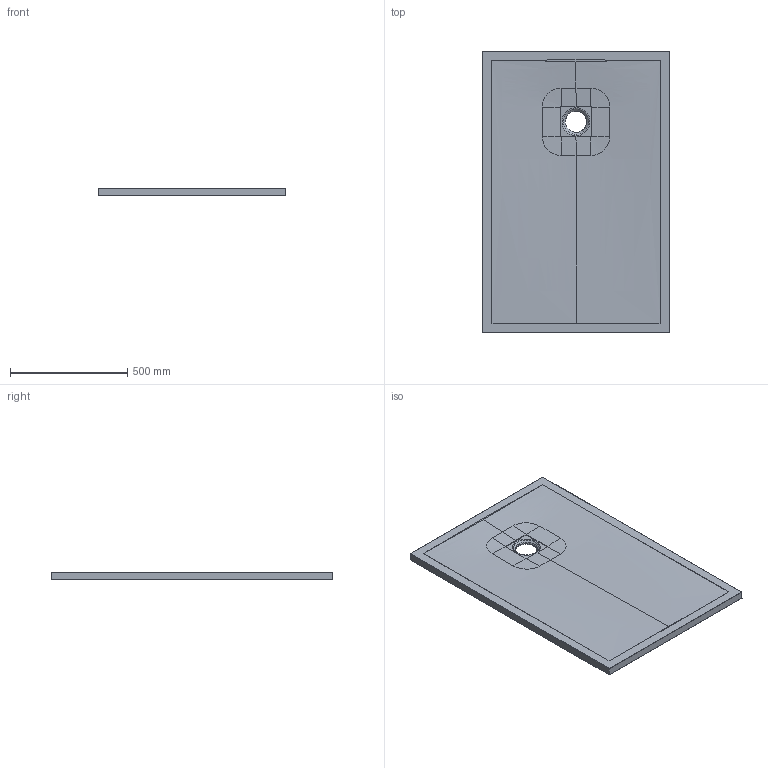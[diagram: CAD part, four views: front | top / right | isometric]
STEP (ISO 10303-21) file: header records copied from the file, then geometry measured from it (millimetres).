
FILE_DESCRIPTION(/* description */ (''),/* implementation_level */ '2;1');
FILE_NAME(/* name */ '1200X800.stp',/* time_stamp */ '2022-02-25T14:25:42+01:00',/* author */ (''),/* organization */ (''),/* preprocessor_version */ 'ST-DEVELOPER v18.1',/* originating_system */ 'SIEMENS PLM Software NX 1973',/* authorisation */ '');
FILE_SCHEMA (('AUTOMOTIVE_DESIGN { 1 0 10303 214 3 1 1 1 }'));
Length unit declared in the file: millimetre
Products named in the file (1): Cava2B7C939Cut68
Bounding box: 799.98 x 1199.98 x 33 mm (x, y, z)
Volume: 27885111.4 mm3; surface area: 2039521.2 mm2
Topology: 1 solids, 1 shells, 62 faces, 161 edges, 92 vertices
Faces by surface type: bspline 34, cylinder 12, sphere 8, plane 7, cone 1
Entity records: 7428 total; most frequent: CARTESIAN_POINT 6241, ORIENTED_EDGE 298, EDGE_CURVE 149, DIRECTION 140, B_SPLINE_CURVE_WITH_KNOTS 96, VERTEX_POINT 91, EDGE_LOOP 66, ADVANCED_FACE 62
